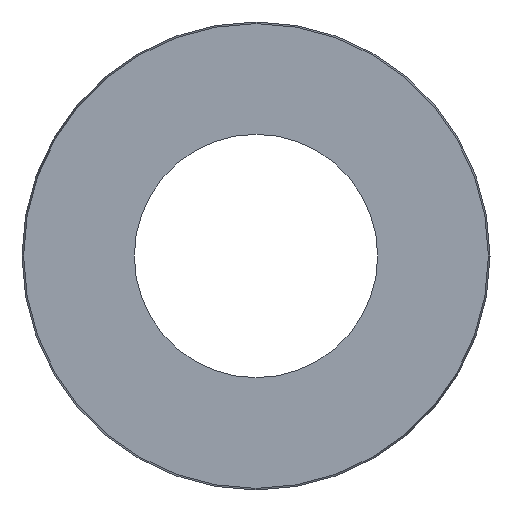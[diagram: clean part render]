
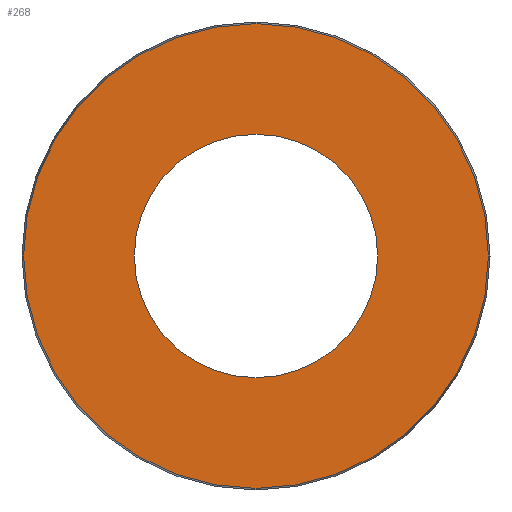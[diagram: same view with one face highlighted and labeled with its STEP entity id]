
A CAD part, left-side view. The second image highlights one B-rep face of the part: STEP entity #268.
In plain terms, the highlighted planar face has unit normal (-1, 0, 0).
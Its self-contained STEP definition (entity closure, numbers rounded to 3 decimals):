
#18=FACE_BOUND('',#64,.T.);
#21=PLANE('',#325);
#43=FACE_OUTER_BOUND('',#63,.T.);
#63=EDGE_LOOP('',(#225));
#64=EDGE_LOOP('',(#226));
#108=CIRCLE('',#324,32.5);
#109=CIRCLE('',#326,62.063);
#130=VERTEX_POINT('',#481);
#131=VERTEX_POINT('',#485);
#162=EDGE_CURVE('',#130,#130,#108,.T.);
#163=EDGE_CURVE('',#131,#131,#109,.T.);
#225=ORIENTED_EDGE('',*,*,#163,.F.);
#226=ORIENTED_EDGE('',*,*,#162,.T.);
#268=ADVANCED_FACE('',(#43,#18),#21,.T.);
#324=AXIS2_PLACEMENT_3D('',#483,#408,#409);
#325=AXIS2_PLACEMENT_3D('',#484,#410,#411);
#326=AXIS2_PLACEMENT_3D('',#486,#412,#413);
#408=DIRECTION('center_axis',(1.,0.,0.));
#409=DIRECTION('ref_axis',(0.,0.,-1.));
#410=DIRECTION('center_axis',(-1.,0.,0.));
#411=DIRECTION('ref_axis',(0.,0.,1.));
#412=DIRECTION('center_axis',(1.,0.,0.));
#413=DIRECTION('ref_axis',(0.,0.,-1.));
#481=CARTESIAN_POINT('',(0.,-32.5,0.));
#483=CARTESIAN_POINT('Origin',(0.,0.,0.));
#484=CARTESIAN_POINT('Origin',(0.,62.063,0.));
#485=CARTESIAN_POINT('',(0.,-62.063,0.));
#486=CARTESIAN_POINT('Origin',(0.,0.,0.));
